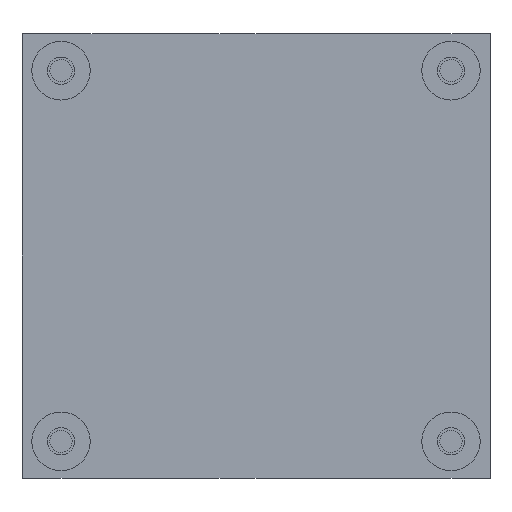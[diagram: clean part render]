
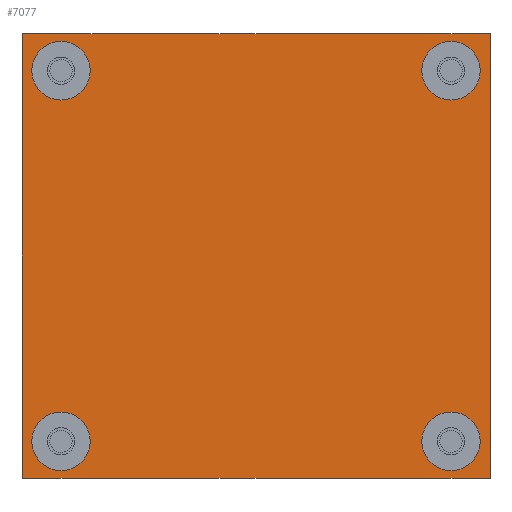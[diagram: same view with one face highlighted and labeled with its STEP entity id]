
A CAD part, front view. The second image highlights one B-rep face of the part: STEP entity #7077.
In plain terms, the highlighted planar face has unit normal (0, -1, 0).
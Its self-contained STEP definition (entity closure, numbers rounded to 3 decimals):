
#112 = DIRECTION ( 'NONE',  ( 1., 0., 0. ) ) ;
#152 = DIRECTION ( 'NONE',  ( 0., 1., 0. ) ) ;
#296 = CARTESIAN_POINT ( 'NONE',  ( -14.44, 27.95, 29.526 ) ) ;
#541 = LINE ( 'NONE', #22974, #8075 ) ;
#570 = LINE ( 'NONE', #16803, #24665 ) ;
#594 = EDGE_CURVE ( 'NONE', #1294, #12861, #570, .T. ) ;
#996 = DIRECTION ( 'NONE',  ( 0., 1., 0. ) ) ;
#1294 = VERTEX_POINT ( 'NONE', #18821 ) ;
#1520 = DIRECTION ( 'NONE',  ( 1., 0., 0. ) ) ;
#2296 = AXIS2_PLACEMENT_3D ( 'NONE', #3921, #18033, #1520 ) ;
#2531 = CARTESIAN_POINT ( 'NONE',  ( 40.17, 27.95, 77.786 ) ) ;
#2771 = FACE_BOUND ( 'NONE', #17916, .T. ) ;
#3191 = EDGE_LOOP ( 'NONE', ( #13867, #15800, #17385, #22324 ) ) ;
#3634 = ORIENTED_EDGE ( 'NONE', *, *, #14890, .T. ) ;
#3921 = CARTESIAN_POINT ( 'NONE',  ( -14.44, 27.95, 77.786 ) ) ;
#4025 = VERTEX_POINT ( 'NONE', #5182 ) ;
#4881 = EDGE_CURVE ( 'NONE', #7974, #4025, #21386, .T. ) ;
#5090 = CARTESIAN_POINT ( 'NONE',  ( 36.36, 27.95, 29.526 ) ) ;
#5157 = FACE_BOUND ( 'NONE', #18381, .T. ) ;
#5182 = CARTESIAN_POINT ( 'NONE',  ( 32.55, 27.95, 29.526 ) ) ;
#5287 = CARTESIAN_POINT ( 'NONE',  ( 40.17, 27.95, 29.526 ) ) ;
#5870 = DIRECTION ( 'NONE',  ( -1., 0., 0. ) ) ;
#6146 = AXIS2_PLACEMENT_3D ( 'NONE', #17939, #26090, #16060 ) ;
#6495 = VERTEX_POINT ( 'NONE', #12856 ) ;
#6530 = ORIENTED_EDGE ( 'NONE', *, *, #7721, .T. ) ;
#6558 = ORIENTED_EDGE ( 'NONE', *, *, #11027, .T. ) ;
#6575 = EDGE_CURVE ( 'NONE', #7747, #17133, #11199, .T. ) ;
#6827 = EDGE_LOOP ( 'NONE', ( #6530, #9934 ) ) ;
#7043 = EDGE_CURVE ( 'NONE', #12861, #6495, #14990, .T. ) ;
#7077 = ADVANCED_FACE ( 'NONE', ( #2771, #5157, #19400, #9259, #10866 ), #25175, .F. ) ;
#7153 = ORIENTED_EDGE ( 'NONE', *, *, #6575, .T. ) ;
#7337 = CIRCLE ( 'NONE', #22278, 3.81 ) ;
#7721 = EDGE_CURVE ( 'NONE', #4025, #7974, #11680, .T. ) ;
#7747 = VERTEX_POINT ( 'NONE', #10678 ) ;
#7974 = VERTEX_POINT ( 'NONE', #5287 ) ;
#8075 = VECTOR ( 'NONE', #18541, 1000. ) ;
#8250 = VECTOR ( 'NONE', #5870, 1000. ) ;
#8368 = ORIENTED_EDGE ( 'NONE', *, *, #9650, .T. ) ;
#9030 = AXIS2_PLACEMENT_3D ( 'NONE', #17666, #996, #21815 ) ;
#9259 = FACE_BOUND ( 'NONE', #6827, .T. ) ;
#9650 = EDGE_CURVE ( 'NONE', #20858, #21280, #17650, .T. ) ;
#9812 = EDGE_CURVE ( 'NONE', #25997, #1294, #25766, .T. ) ;
#9831 = ORIENTED_EDGE ( 'NONE', *, *, #20150, .T. ) ;
#9856 = AXIS2_PLACEMENT_3D ( 'NONE', #13749, #24033, #112 ) ;
#9934 = ORIENTED_EDGE ( 'NONE', *, *, #4881, .T. ) ;
#10380 = VECTOR ( 'NONE', #17000, 1000. ) ;
#10547 = DIRECTION ( 'NONE',  ( 0., 1., 0. ) ) ;
#10678 = CARTESIAN_POINT ( 'NONE',  ( -18.25, 27.95, 77.786 ) ) ;
#10800 = DIRECTION ( 'NONE',  ( 0., 1., 0. ) ) ;
#10866 = FACE_OUTER_BOUND ( 'NONE', #3191, .T. ) ;
#11027 = EDGE_CURVE ( 'NONE', #24465, #26127, #19048, .T. ) ;
#11199 = CIRCLE ( 'NONE', #2296, 3.81 ) ;
#11664 = AXIS2_PLACEMENT_3D ( 'NONE', #296, #152, #14677 ) ;
#11680 = CIRCLE ( 'NONE', #21941, 3.81 ) ;
#12856 = CARTESIAN_POINT ( 'NONE',  ( 41.44, 27.95, 82.612 ) ) ;
#12861 = VERTEX_POINT ( 'NONE', #26023 ) ;
#12948 = DIRECTION ( 'NONE',  ( 1., 0., 0. ) ) ;
#13057 = AXIS2_PLACEMENT_3D ( 'NONE', #17544, #24243, #23727 ) ;
#13622 = CARTESIAN_POINT ( 'NONE',  ( -14.44, 27.95, 77.786 ) ) ;
#13749 = CARTESIAN_POINT ( 'NONE',  ( 36.36, 27.95, 29.526 ) ) ;
#13867 = ORIENTED_EDGE ( 'NONE', *, *, #594, .F. ) ;
#14628 = CARTESIAN_POINT ( 'NONE',  ( -10.63, 27.95, 29.526 ) ) ;
#14677 = DIRECTION ( 'NONE',  ( 1., 0., 0. ) ) ;
#14890 = EDGE_CURVE ( 'NONE', #26127, #24465, #23138, .T. ) ;
#14990 = LINE ( 'NONE', #23322, #10380 ) ;
#15800 = ORIENTED_EDGE ( 'NONE', *, *, #9812, .F. ) ;
#16060 = DIRECTION ( 'NONE',  ( 1., 0., 0. ) ) ;
#16114 = CARTESIAN_POINT ( 'NONE',  ( 41.44, 27.95, 24.7 ) ) ;
#16336 = CARTESIAN_POINT ( 'NONE',  ( 32.55, 27.95, 77.786 ) ) ;
#16551 = CARTESIAN_POINT ( 'NONE',  ( -10.63, 27.95, 77.786 ) ) ;
#16803 = CARTESIAN_POINT ( 'NONE',  ( -19.52, 27.95, 24.7 ) ) ;
#16852 = EDGE_CURVE ( 'NONE', #21280, #20858, #20351, .T. ) ;
#17000 = DIRECTION ( 'NONE',  ( 1., 0., 0. ) ) ;
#17133 = VERTEX_POINT ( 'NONE', #16551 ) ;
#17385 = ORIENTED_EDGE ( 'NONE', *, *, #22924, .F. ) ;
#17544 = CARTESIAN_POINT ( 'NONE',  ( 36.36, 27.95, 77.786 ) ) ;
#17650 = CIRCLE ( 'NONE', #11664, 3.81 ) ;
#17666 = CARTESIAN_POINT ( 'NONE',  ( 36.36, 27.95, 77.786 ) ) ;
#17726 = DIRECTION ( 'NONE',  ( 1., 0., 0. ) ) ;
#17916 = EDGE_LOOP ( 'NONE', ( #8368, #20660 ) ) ;
#17939 = CARTESIAN_POINT ( 'NONE',  ( -19.52, 27.95, 24.7 ) ) ;
#18033 = DIRECTION ( 'NONE',  ( 0., 1., 0. ) ) ;
#18381 = EDGE_LOOP ( 'NONE', ( #7153, #9831 ) ) ;
#18541 = DIRECTION ( 'NONE',  ( 0., 0., -1. ) ) ;
#18799 = CARTESIAN_POINT ( 'NONE',  ( -14.44, 27.95, 29.526 ) ) ;
#18821 = CARTESIAN_POINT ( 'NONE',  ( -19.52, 27.95, 24.7 ) ) ;
#19048 = CIRCLE ( 'NONE', #13057, 3.81 ) ;
#19400 = FACE_BOUND ( 'NONE', #24204, .T. ) ;
#20150 = EDGE_CURVE ( 'NONE', #17133, #7747, #7337, .T. ) ;
#20351 = CIRCLE ( 'NONE', #23807, 3.81 ) ;
#20660 = ORIENTED_EDGE ( 'NONE', *, *, #16852, .T. ) ;
#20858 = VERTEX_POINT ( 'NONE', #24318 ) ;
#20955 = DIRECTION ( 'NONE',  ( 1., 0., 0. ) ) ;
#21280 = VERTEX_POINT ( 'NONE', #14628 ) ;
#21386 = CIRCLE ( 'NONE', #9856, 3.81 ) ;
#21746 = DIRECTION ( 'NONE',  ( 0., 1., 0. ) ) ;
#21815 = DIRECTION ( 'NONE',  ( 1., 0., 0. ) ) ;
#21941 = AXIS2_PLACEMENT_3D ( 'NONE', #5090, #10800, #20955 ) ;
#22277 = CARTESIAN_POINT ( 'NONE',  ( -19.52, 27.95, 24.7 ) ) ;
#22278 = AXIS2_PLACEMENT_3D ( 'NONE', #13622, #21746, #17726 ) ;
#22324 = ORIENTED_EDGE ( 'NONE', *, *, #7043, .F. ) ;
#22858 = DIRECTION ( 'NONE',  ( 0., 0., 1. ) ) ;
#22924 = EDGE_CURVE ( 'NONE', #6495, #25997, #541, .T. ) ;
#22974 = CARTESIAN_POINT ( 'NONE',  ( 41.44, 27.95, 24.7 ) ) ;
#23138 = CIRCLE ( 'NONE', #9030, 3.81 ) ;
#23322 = CARTESIAN_POINT ( 'NONE',  ( -19.52, 27.95, 82.612 ) ) ;
#23727 = DIRECTION ( 'NONE',  ( 1., 0., 0. ) ) ;
#23807 = AXIS2_PLACEMENT_3D ( 'NONE', #18799, #10547, #12948 ) ;
#24033 = DIRECTION ( 'NONE',  ( 0., 1., 0. ) ) ;
#24204 = EDGE_LOOP ( 'NONE', ( #6558, #3634 ) ) ;
#24243 = DIRECTION ( 'NONE',  ( 0., 1., 0. ) ) ;
#24318 = CARTESIAN_POINT ( 'NONE',  ( -18.25, 27.95, 29.526 ) ) ;
#24465 = VERTEX_POINT ( 'NONE', #16336 ) ;
#24665 = VECTOR ( 'NONE', #22858, 1000. ) ;
#25175 = PLANE ( 'NONE',  #6146 ) ;
#25766 = LINE ( 'NONE', #22277, #8250 ) ;
#25997 = VERTEX_POINT ( 'NONE', #16114 ) ;
#26023 = CARTESIAN_POINT ( 'NONE',  ( -19.52, 27.95, 82.612 ) ) ;
#26090 = DIRECTION ( 'NONE',  ( 0., 1., 0. ) ) ;
#26127 = VERTEX_POINT ( 'NONE', #2531 ) ;
